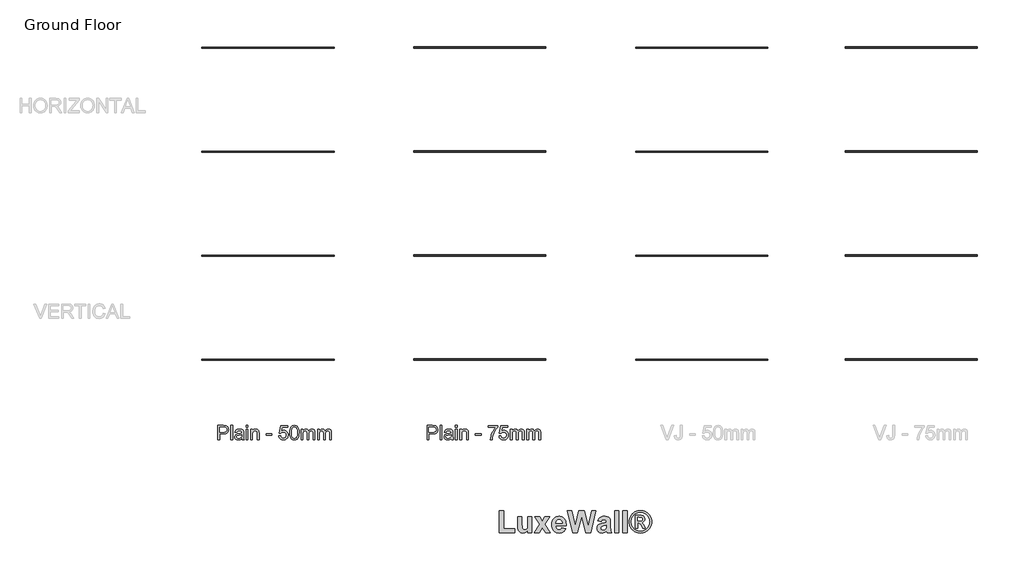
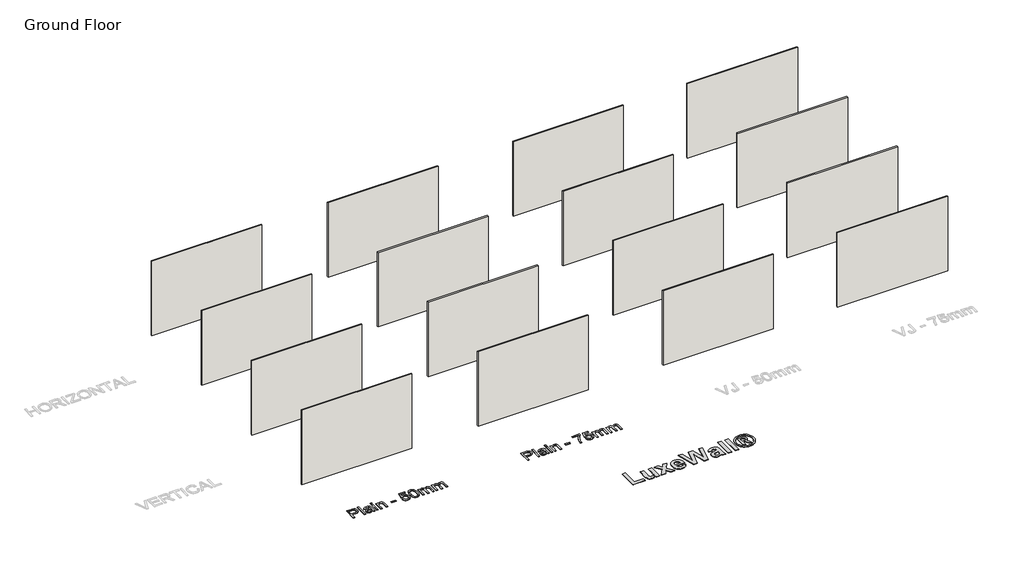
# One storey, part 1 of 2: 16 walls, 3 proxies.
"""IFC4 building model written with IfcOpenShell, lengths in millimetres."""

from ifc_helpers import new_model, si_unit, origin, origin_with_axes, place, context, project, spatial, polyline, outline, extrude, element, save

model = new_model("IFC4")

# Units and contexts
model_context = context("Model", 3, world=origin())
ifc_project = project(units=[si_unit("LENGTHUNIT", "METRE", prefix="MILLI")], contexts=[model_context])

# Site, building, storey
site = spatial("IfcSite", under=ifc_project)
building = spatial("IfcBuilding", under=site)
storey = spatial("IfcBuildingStorey", under=building, Name="Ground Floor", Elevation=0.0)

# Proxies
placement = place(None, origin())
element("IfcBuildingElementProxy", 1, Name="600mm Arial", ObjectType="600mm Arial", at=placement, inside=storey, context=model_context, shape_type="SweptSolid", body=[
    extrude(outline(polyline([(-8281.0770687, -2485.58737), (-8281.0770687, -1882.8495091), (-8057.6991212, -1882.8495091), (-8005.6806071, -1884.2842489), (-7967.6416088, -1888.5884682), (-7927.487289, -1899.3122284), (-7894.4330918, -1916.7682291), (-7867.8168294, -1941.7474165), (-7846.9763144, -1975.0407371), (-7833.5118334, -2014.3121401), (-7829.023673, -2057.2255748), (-7832.054101, -2094.2253065), (-7841.1453848, -2128.2635881), (-7856.2975244, -2159.3404196), (-7877.51052, -2187.4558011), (-7906.6329784, -2210.7611255), (-7945.5135068, -2227.4077858), (-7994.1521051, -2237.395782), (-8052.5487733, -2240.725114), (-8205.7348361, -2240.725114), (-8205.7348361, -2485.58737), (-8281.0770687, -2485.58737)]), holes=[polyline([(-8205.7348361, -2165.3828814), (-8048.1341894, -2165.3828814), (-8011.8978128, -2163.653836), (-7981.326819, -2158.4666999), (-7956.421208, -2149.821473), (-7937.1809796, -2137.7181554), (-7922.8243847, -2122.4786437), (-7912.5696741, -2104.4248348), (-7906.4168478, -2083.5567286), (-7904.3659056, -2059.8743252), (-7909.2035539, -2026.0291816), (-7923.7164986, -1997.4815388), (-7946.102118, -1975.9972303), (-7974.5577903, -1963.3420897), (-8003.6204679, -1959.4793287), (-8049.9000229, -1958.1917417), (-8205.7348361, -1958.1917417), (-8205.7348361, -2165.3828814)])]), origin_with_axes(), (0.0, 0.0, 1.0), 20.0),
    extrude(outline(polyline([(-7734.8458823, -2485.58737), (-7734.8458823, -1882.8495091), (-7659.5036496, -1882.8495091), (-7659.5036496, -2485.58737), (-7734.8458823, -2485.58737)])), origin_with_axes(), (0.0, 0.0, 1.0), 20.0),
    extrude(outline(polyline([(-7263.9569284, -2429.0806956), (-7299.9541817, -2459.9459949), (-7337.0182927, -2480.1427165), (-7375.9953901, -2491.2895409), (-7417.7316024, -2495.0051491), (-7451.2778419, -2492.770266), (-7480.6946059, -2486.0656166), (-7505.9818945, -2474.891201), (-7527.1397078, -2459.2470192), (-7543.8461489, -2440.1263525), (-7555.7793211, -2418.5224823), (-7562.9392244, -2394.4354087), (-7565.3258589, -2367.8651316), (-7561.7206153, -2336.6319502), (-7550.9048847, -2308.2682483), (-7534.2214362, -2283.9880367), (-7513.0130392, -2265.0053257), (-7488.089034, -2250.6579279), (-7460.2587611, -2240.2836556), (-7395.0700715, -2228.9528902), (-7318.0355817, -2217.0335135), (-7264.3983868, -2203.0539977), (-7263.9569284, -2186.2785787), (-7269.1440646, -2152.6541644), (-7275.6279847, -2140.2013588), (-7284.705473, -2130.6548211), (-7300.3956401, -2121.1266774), (-7319.5071097, -2114.3208605), (-7367.9939567, -2108.8762069), (-7412.8755601, -2112.4998446), (-7444.2191061, -2123.3707576), (-7465.59305, -2143.4755086), (-7480.5658472, -2174.8006605), (-7555.9080798, -2165.3828814), (-7542.8298749, -2124.1800979), (-7523.313735, -2091.8064824), (-7495.5386444, -2067.0480241), (-7457.6835871, -2048.6907125), (-7411.385638, -2037.3231589), (-7358.281872, -2033.5339743), (-7307.3486098, -2036.8817005), (-7266.9735608, -2046.924879), (-7236.5313257, -2062.0264349), (-7215.3965051, -2080.5492933), (-7201.3802011, -2103.4499475), (-7192.2935158, -2131.6848907), (-7188.6146958, -2197.6093442), (-7188.6146958, -2291.3456766), (-7184.7887231, -2422.2380904), (-7179.1233403, -2454.5933119), (-7169.7791377, -2485.58737), (-7245.1213703, -2485.58737), (-7257.1878997, -2459.394172), (-7263.9569284, -2429.0806956)]), holes=[polyline([(-7263.9569284, -2278.3962303), (-7314.577491, -2290.9410064), (-7385.5051396, -2301.4992196), (-7450.3259472, -2313.7129019), (-7467.1933367, -2322.0638232), (-7479.6829304, -2333.5785296), (-7487.4084523, -2347.3741044), (-7489.9836263, -2362.5676308), (-7484.3734258, -2384.9716443), (-7467.5428246, -2403.3289559), (-7439.8597044, -2415.5794263), (-7401.6919474, -2419.6629165), (-7361.224928, -2415.156362), (-7325.466798, -2401.6366987), (-7296.4776968, -2381.7158887), (-7276.3177635, -2358.0058941), (-7267.378231, -2333.5785296), (-7264.3983868, -2299.733386), (-7263.9569284, -2278.3962303)])]), origin_with_axes(), (0.0, 0.0, 1.0), 20.0),
    extrude(outline(polyline([(-7085.019126, -2485.58737), (-7085.019126, -2042.9517534), (-7009.6768934, -2042.9517534), (-7009.6768934, -2485.58737), (-7085.019126, -2485.58737)])), origin_with_axes(), (0.0, 0.0, 1.0), 20.0),
    extrude(outline(polyline([(-7085.019126, -1958.1917417), (-7085.019126, -1882.8495091), (-7009.6768934, -1882.8495091), (-7009.6768934, -1958.1917417), (-7085.019126, -1958.1917417)])), origin_with_axes(), (0.0, 0.0, 1.0), 20.0),
    extrude(outline(polyline([(-6896.6635444, -2485.58737), (-6896.6635444, -2042.9517534), (-6821.3213118, -2042.9517534), (-6821.3213118, -2104.7559286), (-6795.1465079, -2073.5963236), (-6763.7109914, -2051.3394629), (-6727.0147624, -2037.9853465), (-6685.0578208, -2033.5339743), (-6647.9201334, -2037.1208238), (-6613.909443, -2047.8813721), (-6585.5457411, -2064.4728501), (-6565.3490196, -2085.5524885), (-6551.6454153, -2111.0651048), (-6542.7610651, -2140.9555169), (-6538.7879395, -2213.796152), (-6538.7879395, -2485.58737), (-6614.1301722, -2485.58737), (-6614.1301722, -2223.949695), (-6616.3006759, -2184.9909918), (-6622.8121872, -2157.2894775), (-6634.8235344, -2137.4422439), (-6653.4935456, -2122.0463824), (-6677.4242694, -2112.1687508), (-6705.2177542, -2108.8762069), (-6728.0954157, -2110.724814), (-6749.3451995, -2116.2706351), (-6768.9671054, -2125.5136702), (-6786.9611335, -2138.4539194), (-6801.9937115, -2156.5629106), (-6812.7312672, -2181.3121718), (-6819.1738007, -2212.701703), (-6821.3213118, -2250.7315043), (-6821.3213118, -2485.58737), (-6896.6635444, -2485.58737)])), origin_with_axes(), (0.0, 0.0, 1.0), 20.0),
    extrude(outline(polyline([(-6237.4190091, -2306.6495676), (-6237.4190091, -2231.3073349), (-6001.9745322, -2231.3073349), (-6001.9745322, -2306.6495676), (-6237.4190091, -2306.6495676)])), origin_with_axes(), (0.0, 0.0, 1.0), 20.0),
    extrude(outline(polyline([(-5700.6056017, -2325.4851257), (-5625.2633691, -2316.0673466), (-5619.6347746, -2340.2877775), (-5611.4310061, -2361.2984379), (-5600.6520636, -2379.099328), (-5587.2979472, -2393.6904476), (-5571.396248, -2405.0534027), (-5552.9745571, -2413.1697993), (-5532.0328745, -2418.0396372), (-5508.5712002, -2419.6629165), (-5479.8764046, -2417.4050407), (-5454.5661234, -2410.6314135), (-5432.6403564, -2399.3420348), (-5414.0991039, -2383.5369045), (-5399.3562329, -2363.9977721), (-5388.8256108, -2341.5063866), (-5382.5072375, -2316.0627481), (-5380.4011131, -2287.6668566), (-5382.3738803, -2260.8298651), (-5388.2921819, -2236.9727177), (-5398.1560179, -2216.0954144), (-5411.9653883, -2198.1979554), (-5429.7662784, -2183.8413605), (-5451.6046733, -2173.5866499), (-5477.4805731, -2167.4338235), (-5507.3939779, -2165.3828814), (-5543.9430541, -2168.6570312), (-5573.5391606, -2178.4794804), (-5597.1755788, -2193.525854), (-5615.84559, -2212.4717768), (-5691.1878227, -2203.0539977), (-5625.2633691, -1892.2672882), (-5333.3122177, -1892.2672882), (-5333.3122177, -1967.6095208), (-5564.3421107, -1967.6095208), (-5596.5685735, -2133.597877), (-5569.9799023, -2114.5415897), (-5542.7474376, -2100.9299559), (-5514.8711794, -2092.7629756), (-5486.3511277, -2090.0406488), (-5449.6594972, -2093.4159661), (-5415.956908, -2103.541918), (-5385.2433599, -2120.4185045), (-5357.518853, -2144.0457257), (-5334.5676151, -2172.9796446), (-5318.1738736, -2205.7763245), (-5308.3376288, -2242.4357653), (-5305.0588805, -2282.9579671), (-5308.0111335, -2321.9902468), (-5316.8678926, -2358.3001997), (-5331.6291576, -2391.8878258), (-5352.2949287, -2422.7531252), (-5383.6016865, -2454.3633857), (-5420.1323686, -2476.9421431), (-5461.8869751, -2490.4893976), (-5508.8655058, -2495.0051491), (-5547.7460342, -2492.1034798), (-5582.8649692, -2483.3984721), (-5614.2223107, -2468.890126), (-5641.8180589, -2448.5784413), (-5664.7784939, -2423.4750936), (-5682.2298961, -2394.5917585), (-5694.1722653, -2361.9284359), (-5700.6056017, -2325.4851257)])), origin_with_axes(), (0.0, 0.0, 1.0), 20.0),
    extrude(outline(polyline([(-5239.134427, -2189.0744819), (-5233.597803, -2092.5974287), (-5226.6770229, -2051.6843523), (-5216.9879309, -2015.6549094), (-5204.5719135, -1984.2147944), (-5189.4703576, -1957.0697016), (-5171.6832632, -1934.2196312), (-5151.2106301, -1915.6645831), (-5127.9834807, -1901.3079882), (-5101.9328369, -1891.0532776), (-5073.0586988, -1884.9004512), (-5041.3610664, -1882.8495091), (-4994.9343586, -1887.7055514), (-4953.3636931, -1902.2736785), (-4918.5988446, -1925.983673), (-4892.5895875, -1958.2653181), (-4872.944689, -1998.8427022), (-4857.272916, -2047.4399138), (-4847.0090083, -2109.1521184), (-4843.5877058, -2189.0744819), (-4849.0691475, -2284.9997121), (-4855.9209497, -2325.7748328), (-4865.5134727, -2361.7582904), (-4877.832921, -2393.212201), (-4892.865499, -2420.3986805), (-4910.6112068, -2443.3177288), (-4931.0700442, -2461.9693459), (-4954.3247848, -2476.4225098), (-4980.4582021, -2486.7461983), (-5009.4702959, -2492.9404114), (-5041.3610664, -2495.0051491), (-5082.8581554, -2491.4182996), (-5119.6463549, -2480.6577513), (-5151.7256649, -2462.723504), (-5179.0960854, -2437.6155578), (-5205.3628598, -2392.2281167), (-5224.1248416, -2335.675457), (-5235.3820306, -2267.9575787), (-5239.134427, -2189.0744819)]), holes=[polyline([(-5163.7921944, -2188.9273291), (-5161.5849024, -2254.4241198), (-5154.9630265, -2307.4405138), (-5143.9265666, -2347.9765112), (-5128.4755228, -2376.0321118), (-5109.7871175, -2395.1205889), (-5089.0385729, -2408.7552153), (-5066.2298892, -2416.9359912), (-5041.3610664, -2419.6629165), (-5016.4922435, -2416.9267941), (-4993.6835598, -2408.7184271), (-4972.9350153, -2395.0378154), (-4954.2466099, -2375.884959), (-4938.7955661, -2347.7833731), (-4927.7591063, -2307.2565728), (-4921.1372303, -2254.3045582), (-4918.9299384, -2188.9273291), (-4921.0636539, -2125.1641823), (-4927.4648007, -2073.0812888), (-4938.1333785, -2032.6786487), (-4953.0693875, -2003.9562619), (-4971.4450932, -1983.9342843), (-4992.432761, -1969.6328718), (-5016.032391, -1961.0520242), (-5042.2439832, -1958.1917417), (-5066.9840473, -1960.7117334), (-5089.4064549, -1968.2717084), (-5109.511206, -1980.8716667), (-5127.2983004, -1998.5116084), (-5143.264379, -2029.781578), (-5154.6687209, -2071.9408546), (-5161.511326, -2124.9894383), (-5163.7921944, -2188.9273291)])]), origin_with_axes(), (0.0, 0.0, 1.0), 20.0),
    extrude(outline(polyline([(-4758.8276941, -2485.58737), (-4758.8276941, -2042.9517534), (-4683.4854615, -2042.9517534), (-4683.4854615, -2115.7923885), (-4660.8239306, -2082.333521), (-4631.6876765, -2056.1219288), (-4597.0699808, -2039.180963), (-4557.9641247, -2033.5339743), (-4516.0623655, -2039.2913276), (-4498.2292857, -2046.4880191), (-4482.4747393, -2056.5633872), (-4457.3851872, -2084.2097192), (-4440.9776502, -2121.0898892), (-4413.5152593, -2082.7841764), (-4382.1901074, -2055.422953), (-4347.0021946, -2039.006219), (-4307.9515208, -2033.5339743), (-4277.7897957, -2035.8102442), (-4251.3160876, -2042.6390537), (-4228.5303966, -2054.0204029), (-4209.4327225, -2069.9542919), (-4194.3357651, -2090.6246615), (-4183.5522241, -2116.2154528), (-4177.0820995, -2146.7266657), (-4174.9253913, -2182.1583004), (-4174.9253913, -2485.58737), (-4250.2676239, -2485.58737), (-4250.2676239, -2214.531916), (-4252.0150634, -2176.9527702), (-4257.2573819, -2151.6240948), (-4267.0798311, -2134.2784587), (-4282.5676631, -2120.6484308), (-4302.4884732, -2111.8192629), (-4325.6098566, -2108.8762069), (-4346.9608079, -2110.7616022), (-4366.4263639, -2116.4177879), (-4384.0065248, -2125.844764), (-4399.7012904, -2139.0425306), (-4412.6093499, -2156.3973637), (-4421.8293924, -2178.2955394), (-4427.3614179, -2204.7370578), (-4429.2054264, -2235.7219189), (-4429.2054264, -2485.58737), (-4504.547659, -2485.58737), (-4504.547659, -2206.1442065), (-4508.9070607, -2163.5434714), (-4514.3563127, -2146.8232348), (-4521.9852656, -2133.1564186), (-4532.0974219, -2122.533826), (-4544.9962844, -2114.9462599), (-4560.6818529, -2110.3937202), (-4579.1541276, -2108.8762069), (-4608.1800171, -2112.9229089), (-4634.9250381, -2125.0630147), (-4656.9979578, -2145.0022189), (-4672.0075432, -2172.4462157), (-4680.6159819, -2210.5220022), (-4683.4854615, -2262.3565753), (-4683.4854615, -2485.58737), (-4758.8276941, -2485.58737)])), origin_with_axes(), (0.0, 0.0, 1.0), 20.0),
    extrude(outline(polyline([(-4061.9120424, -2485.58737), (-4061.9120424, -2042.9517534), (-3986.5698098, -2042.9517534), (-3986.5698098, -2115.7923885), (-3963.9082789, -2082.333521), (-3934.7720249, -2056.1219288), (-3900.1543291, -2039.180963), (-3861.048473, -2033.5339743), (-3819.1467138, -2039.2913276), (-3801.3136341, -2046.4880191), (-3785.5590876, -2056.5633872), (-3760.4695356, -2084.2097192), (-3744.0619986, -2121.0898892), (-3716.5996076, -2082.7841764), (-3685.2744558, -2055.422953), (-3650.0865429, -2039.006219), (-3611.0358691, -2033.5339743), (-3580.874144, -2035.8102442), (-3554.400436, -2042.6390537), (-3531.6147449, -2054.0204029), (-3512.5170708, -2069.9542919), (-3497.4201134, -2090.6246615), (-3486.6365725, -2116.2154528), (-3480.1664479, -2146.7266657), (-3478.0097397, -2182.1583004), (-3478.0097397, -2485.58737), (-3553.3519723, -2485.58737), (-3553.3519723, -2214.531916), (-3555.0994118, -2176.9527702), (-3560.3417302, -2151.6240948), (-3570.1641795, -2134.2784587), (-3585.6520115, -2120.6484308), (-3605.5728215, -2111.8192629), (-3628.6942049, -2108.8762069), (-3650.0451562, -2110.7616022), (-3669.5107123, -2116.4177879), (-3687.0908731, -2125.844764), (-3702.7856387, -2139.0425306), (-3715.6936982, -2156.3973637), (-3724.9137407, -2178.2955394), (-3730.4457662, -2204.7370578), (-3732.2897747, -2235.7219189), (-3732.2897747, -2485.58737), (-3807.6320073, -2485.58737), (-3807.6320073, -2206.1442065), (-3811.991409, -2163.5434714), (-3817.440661, -2146.8232348), (-3825.0696139, -2133.1564186), (-3835.1817703, -2122.533826), (-3848.0806327, -2114.9462599), (-3863.7662013, -2110.3937202), (-3882.238476, -2108.8762069), (-3911.2643654, -2112.9229089), (-3938.0093864, -2125.0630147), (-3960.0823061, -2145.0022189), (-3975.0918916, -2172.4462157), (-3983.7003302, -2210.5220022), (-3986.5698098, -2262.3565753), (-3986.5698098, -2485.58737), (-4061.9120424, -2485.58737)])), origin_with_axes(), (0.0, 0.0, 1.0), 20.0),
])
element("IfcBuildingElementProxy", 2, Name="600mm Arial", ObjectType="600mm Arial", at=placement, inside=storey, context=model_context, shape_type="SweptSolid", body=[
    extrude(outline(polyline([(578.21479, -2485.58737), (578.21479, -1882.8495091), (801.5927374, -1882.8495091), (853.6112516, -1884.2842489), (891.6502499, -1888.5884682), (931.8045696, -1899.3122284), (964.8587669, -1916.7682291), (991.4750292, -1941.7474165), (1012.3155443, -1975.0407371), (1025.7800253, -2014.3121401), (1030.2681856, -2057.2255748), (1027.2377577, -2094.2253065), (1018.1464739, -2128.2635881), (1002.9943342, -2159.3404196), (981.7813387, -2187.4558011), (952.6588802, -2210.7611255), (913.7783519, -2227.4077858), (865.1397536, -2237.395782), (806.7430854, -2240.725114), (653.5570226, -2240.725114), (653.5570226, -2485.58737), (578.21479, -2485.58737)]), holes=[polyline([(653.5570226, -2165.3828814), (811.1576693, -2165.3828814), (847.3940458, -2163.653836), (877.9650396, -2158.4666999), (902.8706507, -2149.821473), (922.1108791, -2137.7181554), (936.4674739, -2122.4786437), (946.7221845, -2104.4248348), (952.8750109, -2083.5567286), (954.925953, -2059.8743252), (950.0883048, -2026.0291816), (935.5753601, -1997.4815388), (913.1897407, -1975.9972303), (884.7340683, -1963.3420897), (855.6713907, -1959.4793287), (809.3918357, -1958.1917417), (653.5570226, -1958.1917417), (653.5570226, -2165.3828814)])]), origin_with_axes(), (0.0, 0.0, 1.0), 20.0),
    extrude(outline(polyline([(1124.4459764, -2485.58737), (1124.4459764, -1882.8495091), (1199.788209, -1882.8495091), (1199.788209, -2485.58737), (1124.4459764, -2485.58737)])), origin_with_axes(), (0.0, 0.0, 1.0), 20.0),
    extrude(outline(polyline([(1595.3349302, -2429.0806956), (1559.337677, -2459.9459949), (1522.273566, -2480.1427165), (1483.2964686, -2491.2895409), (1441.5602562, -2495.0051491), (1408.0140168, -2492.770266), (1378.5972528, -2486.0656166), (1353.3099641, -2474.891201), (1332.1521509, -2459.2470192), (1315.4457098, -2440.1263525), (1303.5125376, -2418.5224823), (1296.3526342, -2394.4354087), (1293.9659998, -2367.8651316), (1297.5712433, -2336.6319502), (1308.386974, -2308.2682483), (1325.0704225, -2283.9880367), (1346.2788195, -2265.0053257), (1371.2028247, -2250.6579279), (1399.0330976, -2240.2836556), (1464.2217871, -2228.9528902), (1541.2562769, -2217.0335135), (1594.8934718, -2203.0539977), (1595.3349302, -2186.2785787), (1590.1477941, -2152.6541644), (1583.6638739, -2140.2013588), (1574.5863857, -2130.6548211), (1558.8962186, -2121.1266774), (1539.784749, -2114.3208605), (1491.297902, -2108.8762069), (1446.4162986, -2112.4998446), (1415.0727526, -2123.3707576), (1393.6988087, -2143.4755086), (1378.7260115, -2174.8006605), (1303.3837789, -2165.3828814), (1316.4619838, -2124.1800979), (1335.9781236, -2091.8064824), (1363.7532143, -2067.0480241), (1401.6082716, -2048.6907125), (1447.9062207, -2037.3231589), (1501.0099867, -2033.5339743), (1551.9432489, -2036.8817005), (1592.3182979, -2046.924879), (1622.760533, -2062.0264349), (1643.8953536, -2080.5492933), (1657.9116576, -2103.4499475), (1666.9983429, -2131.6848907), (1670.6771628, -2197.6093442), (1670.6771628, -2291.3456766), (1674.5031356, -2422.2380904), (1680.1685183, -2454.5933119), (1689.512721, -2485.58737), (1614.1704884, -2485.58737), (1602.1039589, -2459.394172), (1595.3349302, -2429.0806956)]), holes=[polyline([(1595.3349302, -2278.3962303), (1544.7143677, -2290.9410064), (1473.786719, -2301.4992196), (1408.9659115, -2313.7129019), (1392.098522, -2322.0638232), (1379.6089283, -2333.5785296), (1371.8834064, -2347.3741044), (1369.3082324, -2362.5676308), (1374.9184328, -2384.9716443), (1391.7490341, -2403.3289559), (1419.4321542, -2415.5794263), (1457.5999112, -2419.6629165), (1498.0669307, -2415.156362), (1533.8250606, -2401.6366987), (1562.8141619, -2381.7158887), (1582.9740952, -2358.0058941), (1591.9136277, -2333.5785296), (1594.8934718, -2299.733386), (1595.3349302, -2278.3962303)])]), origin_with_axes(), (0.0, 0.0, 1.0), 20.0),
    extrude(outline(polyline([(1774.2727327, -2485.58737), (1774.2727327, -2042.9517534), (1849.6149653, -2042.9517534), (1849.6149653, -2485.58737), (1774.2727327, -2485.58737)])), origin_with_axes(), (0.0, 0.0, 1.0), 20.0),
    extrude(outline(polyline([(1774.2727327, -1958.1917417), (1774.2727327, -1882.8495091), (1849.6149653, -1882.8495091), (1849.6149653, -1958.1917417), (1774.2727327, -1958.1917417)])), origin_with_axes(), (0.0, 0.0, 1.0), 20.0),
    extrude(outline(polyline([(1962.6283142, -2485.58737), (1962.6283142, -2042.9517534), (2037.9705468, -2042.9517534), (2037.9705468, -2104.7559286), (2064.1453508, -2073.5963236), (2095.5808673, -2051.3394629), (2132.2770963, -2037.9853465), (2174.2340378, -2033.5339743), (2211.3717253, -2037.1208238), (2245.3824157, -2047.8813721), (2273.7461175, -2064.4728501), (2293.9428391, -2085.5524885), (2307.6464434, -2111.0651048), (2316.5307936, -2140.9555169), (2320.5039191, -2213.796152), (2320.5039191, -2485.58737), (2245.1616865, -2485.58737), (2245.1616865, -2223.949695), (2242.9911827, -2184.9909918), (2236.4796714, -2157.2894775), (2224.4683243, -2137.4422439), (2205.798313, -2122.0463824), (2181.8675892, -2112.1687508), (2154.0741045, -2108.8762069), (2131.1964429, -2110.724814), (2109.9466592, -2116.2706351), (2090.3247533, -2125.5136702), (2072.3307252, -2138.4539194), (2057.2981471, -2156.5629106), (2046.5605914, -2181.3121718), (2040.118058, -2212.701703), (2037.9705468, -2250.7315043), (2037.9705468, -2485.58737), (1962.6283142, -2485.58737)])), origin_with_axes(), (0.0, 0.0, 1.0), 20.0),
    extrude(outline(polyline([(2621.8728496, -2306.6495676), (2621.8728496, -2231.3073349), (2857.3173265, -2231.3073349), (2857.3173265, -2306.6495676), (2621.8728496, -2306.6495676)])), origin_with_axes(), (0.0, 0.0, 1.0), 20.0),
    extrude(outline(polyline([(3158.6862569, -1967.6095208), (3158.6862569, -1892.2672882), (3554.2329781, -1892.2672882), (3554.2329781, -1953.1885466), (3497.8550624, -2024.5392596), (3442.0289696, -2115.2773537), (3392.7879646, -2217.125484), (3372.8993442, -2269.1118085), (3356.1653119, -2321.8063058), (3338.2126706, -2400.1283825), (3328.2062803, -2485.58737), (3252.8640477, -2485.58737), (3261.0126339, -2407.9274808), (3282.8096421, -2315.6258882), (3298.6791517, -2266.260723), (3317.6664611, -2217.7876716), (3339.7715705, -2170.2067341), (3364.9944798, -2123.5179104), (3420.2503555, -2038.2980462), (3478.8907455, -1967.6095208), (3158.6862569, -1967.6095208)])), origin_with_axes(), (0.0, 0.0, 1.0), 20.0),
    extrude(outline(polyline([(3620.1574317, -2325.4851257), (3695.4996643, -2316.0673466), (3701.1282588, -2340.2877775), (3709.3320273, -2361.2984379), (3720.1109698, -2379.099328), (3733.4650862, -2393.6904476), (3749.3667854, -2405.0534027), (3767.7884763, -2413.1697993), (3788.7301589, -2418.0396372), (3812.1918332, -2419.6629165), (3840.8866288, -2417.4050407), (3866.1969101, -2410.6314135), (3888.122677, -2399.3420348), (3906.6639295, -2383.5369045), (3921.4068005, -2363.9977721), (3931.9374226, -2341.5063866), (3938.2557959, -2316.0627481), (3940.3619203, -2287.6668566), (3938.3891531, -2260.8298651), (3932.4708515, -2236.9727177), (3922.6070155, -2216.0954144), (3908.7976451, -2198.1979554), (3890.9967551, -2183.8413605), (3869.1583601, -2173.5866499), (3843.2824603, -2167.4338235), (3813.3690555, -2165.3828814), (3776.8199793, -2168.6570312), (3747.2238728, -2178.4794804), (3723.5874546, -2193.525854), (3704.9174434, -2212.4717768), (3629.5752108, -2203.0539977), (3695.4996643, -1892.2672882), (3987.4508157, -1892.2672882), (3987.4508157, -1967.6095208), (3756.4209227, -1967.6095208), (3724.1944599, -2133.597877), (3750.7831311, -2114.5415897), (3778.0155958, -2100.9299559), (3805.891854, -2092.7629756), (3834.4119057, -2090.0406488), (3871.1035362, -2093.4159661), (3904.8061254, -2103.541918), (3935.5196735, -2120.4185045), (3963.2441804, -2144.0457257), (3986.1954184, -2172.9796446), (4002.5891598, -2205.7763245), (4012.4254046, -2242.4357653), (4015.7041529, -2282.9579671), (4012.7518999, -2321.9902468), (4003.8951408, -2358.3001997), (3989.1338758, -2391.8878258), (3968.4681047, -2422.7531252), (3937.1613469, -2454.3633857), (3900.6306648, -2476.9421431), (3858.8760584, -2490.4893976), (3811.8975276, -2495.0051491), (3773.0169992, -2492.1034798), (3737.8980642, -2483.3984721), (3706.5407227, -2468.890126), (3678.9449745, -2448.5784413), (3655.9845395, -2423.4750936), (3638.5331373, -2394.5917585), (3626.5907681, -2361.9284359), (3620.1574317, -2325.4851257)])), origin_with_axes(), (0.0, 0.0, 1.0), 20.0),
    extrude(outline(polyline([(4100.4641646, -2485.58737), (4100.4641646, -2042.9517534), (4175.8063972, -2042.9517534), (4175.8063972, -2115.7923885), (4198.4679281, -2082.333521), (4227.6041821, -2056.1219288), (4262.2218779, -2039.180963), (4301.3277339, -2033.5339743), (4343.2294932, -2039.2913276), (4361.0625729, -2046.4880191), (4376.8171194, -2056.5633872), (4401.9066714, -2084.2097192), (4418.3142084, -2121.0898892), (4445.7765994, -2082.7841764), (4477.1017512, -2055.422953), (4512.2896641, -2039.006219), (4551.3403379, -2033.5339743), (4581.502063, -2035.8102442), (4607.975771, -2042.6390537), (4630.7614621, -2054.0204029), (4649.8591362, -2069.9542919), (4664.9560936, -2090.6246615), (4675.7396345, -2116.2154528), (4682.2097591, -2146.7266657), (4684.3664673, -2182.1583004), (4684.3664673, -2485.58737), (4609.0242347, -2485.58737), (4609.0242347, -2214.531916), (4607.2767952, -2176.9527702), (4602.0344768, -2151.6240948), (4592.2120275, -2134.2784587), (4576.7241955, -2120.6484308), (4556.8033855, -2111.8192629), (4533.6820021, -2108.8762069), (4512.3310508, -2110.7616022), (4492.8654947, -2116.4177879), (4475.2853339, -2125.844764), (4459.5905683, -2139.0425306), (4446.6825088, -2156.3973637), (4437.4624663, -2178.2955394), (4431.9304408, -2204.7370578), (4430.0864323, -2235.7219189), (4430.0864323, -2485.58737), (4354.7441996, -2485.58737), (4354.7441996, -2206.1442065), (4350.384798, -2163.5434714), (4344.935546, -2146.8232348), (4337.3065931, -2133.1564186), (4327.1944367, -2122.533826), (4314.2955743, -2114.9462599), (4298.6100057, -2110.3937202), (4280.137731, -2108.8762069), (4251.1118416, -2112.9229089), (4224.3668206, -2125.0630147), (4202.2939008, -2145.0022189), (4187.2843154, -2172.4462157), (4178.6758768, -2210.5220022), (4175.8063972, -2262.3565753), (4175.8063972, -2485.58737), (4100.4641646, -2485.58737)])), origin_with_axes(), (0.0, 0.0, 1.0), 20.0),
    extrude(outline(polyline([(4797.3798162, -2485.58737), (4797.3798162, -2042.9517534), (4872.7220489, -2042.9517534), (4872.7220489, -2115.7923885), (4895.3835798, -2082.333521), (4924.5198338, -2056.1219288), (4959.1375295, -2039.180963), (4998.2433856, -2033.5339743), (5040.1451449, -2039.2913276), (5057.9782246, -2046.4880191), (5073.732771, -2056.5633872), (5098.8223231, -2084.2097192), (5115.2298601, -2121.0898892), (5142.692251, -2082.7841764), (5174.0174029, -2055.422953), (5209.2053157, -2039.006219), (5248.2559895, -2033.5339743), (5278.4177146, -2035.8102442), (5304.8914227, -2042.6390537), (5327.6771138, -2054.0204029), (5346.7747878, -2069.9542919), (5361.8717452, -2090.6246615), (5372.6552862, -2116.2154528), (5379.1254108, -2146.7266657), (5381.282119, -2182.1583004), (5381.282119, -2485.58737), (5305.9398864, -2485.58737), (5305.9398864, -2214.531916), (5304.1924469, -2176.9527702), (5298.9501285, -2151.6240948), (5289.1276792, -2134.2784587), (5273.6398472, -2120.6484308), (5253.7190372, -2111.8192629), (5230.5976538, -2108.8762069), (5209.2467025, -2110.7616022), (5189.7811464, -2116.4177879), (5172.2009856, -2125.844764), (5156.5062199, -2139.0425306), (5143.5981604, -2156.3973637), (5134.3781179, -2178.2955394), (5128.8460924, -2204.7370578), (5127.0020839, -2235.7219189), (5127.0020839, -2485.58737), (5051.6598513, -2485.58737), (5051.6598513, -2206.1442065), (5047.3004497, -2163.5434714), (5041.8511976, -2146.8232348), (5034.2222447, -2133.1564186), (5024.1100884, -2122.533826), (5011.2112259, -2114.9462599), (4995.5256574, -2110.3937202), (4977.0533827, -2108.8762069), (4948.0274933, -2112.9229089), (4921.2824722, -2125.0630147), (4899.2095525, -2145.0022189), (4884.1999671, -2172.4462157), (4875.5915284, -2210.5220022), (4872.7220489, -2262.3565753), (4872.7220489, -2485.58737), (4797.3798162, -2485.58737)])), origin_with_axes(), (0.0, 0.0, 1.0), 20.0),
])
element("IfcBuildingElementProxy", 3, Name="900mm Arial", ObjectType="900mm Arial", at=placement, inside=storey, context=model_context, shape_type="SweptSolid", body=[
    extrude(outline(polyline([(3638.3193538, -6419.7488861), (3638.3193538, -5497.7851027), (3813.931503, -5497.7851027), (3813.931503, -6258.7710827), (4282.2305675, -6258.7710827), (4282.2305675, -6419.7488861), (3638.3193538, -6419.7488861)])), origin_with_axes(), (0.0, 0.0, 1.0), 20.0),
    extrude(outline(polyline([(4838.3357067, -6419.7488861), (4838.3357067, -6320.9670522), (4819.4782661, -6345.9697748), (4797.8911769, -6368.1571008), (4773.5744393, -6387.5290301), (4746.5280532, -6404.0855629), (4717.7095393, -6417.3407931), (4688.0764183, -6426.8088147), (4657.6286901, -6432.4896276), (4626.3663548, -6434.3832319), (4595.0539997, -6432.525356), (4565.3708589, -6426.9517282), (4537.3169324, -6417.6623486), (4510.8922202, -6404.6572171), (4487.0542429, -6388.2864719), (4466.7605212, -6368.9002511), (4450.0110552, -6346.4985548), (4436.8058447, -6321.081383), (4426.8018974, -6291.5768842), (4419.6562208, -6256.9132068), (4415.3688148, -6217.0903508), (4413.9396795, -6172.1083163), (4413.9396795, -5746.5689808), (4589.5518287, -5746.5689808), (4589.5518287, -6057.77749), (4591.9241933, -6172.9943802), (4599.0412873, -6232.8179851), (4612.4751594, -6261.6293533), (4633.7978585, -6283.8095336), (4662.4663132, -6297.9579734), (4697.937452, -6302.67412), (4719.5388325, -6301.1020711), (4739.9826134, -6296.3859245), (4759.2687947, -6288.5256802), (4777.3973763, -6277.5213382), (4806.9518949, -6249.3102068), (4825.4163234, -6214.9823762), (4831.0685536, -6189.5366217), (4835.1058609, -6150.5855383), (4838.3357067, -6032.1673849), (4838.3357067, -5746.5689808), (5013.947856, -5746.5689808), (5013.947856, -6419.7488861), (4838.3357067, -6419.7488861)])), origin_with_axes(), (0.0, 0.0, 1.0), 20.0),
    extrude(outline(polyline([(5109.0711034, -6419.7488861), (5346.8792222, -6073.0978208), (5138.339795, -5746.5689808), (5347.1078838, -5746.5689808), (5448.6336576, -5931.5562578), (5558.8485742, -5746.5689808), (5767.616663, -5746.5689808), (5552.9033712, -6065.3233246), (5796.8853546, -6419.7488861), (5588.1172657, -6419.7488861), (5448.6336576, -6211.2094589), (5317.8391923, -6419.7488861), (5109.0711034, -6419.7488861)])), origin_with_axes(), (0.0, 0.0, 1.0), 20.0),
    extrude(outline(polyline([(6272.501592, -6214.8680454), (6448.1137412, -6244.1367369), (6429.1348241, -6287.889715), (6405.3540122, -6326.0833567), (6376.7713056, -6358.7176619), (6343.3867043, -6385.7926307), (6305.3574132, -6407.0510187), (6262.8406372, -6422.2355816), (6215.8363762, -6431.3463193), (6164.3446303, -6434.3832319), (6123.1962514, -6432.5932399), (6084.8132493, -6427.2232639), (6049.195624, -6418.2733039), (6016.3433757, -6405.7433599), (5986.2565041, -6389.6334319), (5958.9350095, -6369.9435199), (5934.3788917, -6346.6736239), (5912.5881508, -6319.8237439), (5884.3770194, -6270.961607), (5864.2262112, -6216.0685191), (5852.1357264, -6155.14448), (5848.1055647, -6088.1894898), (5853.4505309, -6009.2440543), (5869.4854293, -5939.330754), (5881.5116031, -5907.7611545), (5896.2102599, -5878.449589), (5913.5813998, -5851.3960572), (5933.6250228, -5826.6005592), (5979.2144398, -5785.1842174), (6004.1314143, -5768.9135117), (6030.4632327, -5755.6011161), (6058.2098951, -5745.2470306), (6087.3714015, -5737.8512553), (6149.9389462, -5731.934635), (6185.6709023, -5733.4530913), (6219.46638, -5738.0084602), (6251.3253793, -5745.6007416), (6281.2479002, -5756.2299356), (6309.2339428, -5769.8960422), (6335.283507, -5786.5990614), (6359.3965929, -5806.3389931), (6381.5732003, -5829.1158374), (6401.3988802, -5855.0296337), (6418.4591832, -5884.1804216), (6432.7541093, -5916.568201), (6444.2836586, -5952.1929719), (6453.047831, -5991.0547344), (6459.0466265, -6033.1534883), (6462.748087, -6127.0619708), (6023.717714, -6127.0619708), (6026.9904339, -6166.3631923), (6034.9793003, -6201.0340154), (6047.6843134, -6231.07444), (6065.1054731, -6256.4844662), (6086.0994711, -6276.6924397), (6109.5229991, -6291.1267065), (6135.3760572, -6299.7872666), (6163.6586454, -6302.67412), (6200.5303369, -6297.4720674), (6231.1138329, -6281.8659096), (6243.9903422, -6269.8754642), (6255.1804718, -6254.7123383), (6272.501592, -6214.8680454)]), holes=[polyline([(6287.1359378, -6024.6215504), (6284.0061314, -5987.5426343), (6276.4460055, -5955.1941561), (6264.4555601, -5927.5761159), (6248.0347952, -5904.6885136), (6228.3984758, -5886.7314282), (6206.7613669, -5873.9049386), (6183.1234685, -5866.2090449), (6157.4847807, -5863.6437469), (6130.2454614, -5866.3448127), (6105.4642548, -5874.44801), (6083.1411609, -5887.9533389), (6063.2761799, -5906.8607993), (6047.0983679, -5930.512989), (6035.6081199, -5958.0238441), (6028.8054357, -5989.3933645), (6026.6903154, -6024.6215504), (6287.1359378, -6024.6215504)])]), origin_with_axes(), (0.0, 0.0, 1.0), 20.0),
    extrude(outline(polyline([(6738.7427017, -6419.7488861), (6506.6511243, -5497.7851027), (6686.8365066, -5497.7851027), (6835.9239041, -6131.1778805), (6996.2157226, -5497.7851027), (7232.4232097, -5497.7851027), (7392.0290433, -6141.6963165), (7541.1164408, -5497.7851027), (7721.3018231, -5497.7851027), (7492.6401704, -6419.7488861), (7284.7867282, -6419.7488861), (7113.9764737, -5730.5626651), (6939.7362944, -6419.7488861), (6738.7427017, -6419.7488861)])), origin_with_axes(), (0.0, 0.0, 1.0), 20.0),
    extrude(outline(polyline([(7955.4513554, -5951.4498216), (7794.4735519, -5922.18113), (7809.6009494, -5876.8489574), (7829.3730366, -5837.8049802), (7853.7898137, -5805.0491985), (7882.8512806, -5778.5816122), (7918.0294468, -5758.1735597), (7960.7963215, -5743.5963793), (8011.1519048, -5734.8500711), (8069.0961967, -5731.934635), (8121.6455028, -5733.6996172), (8167.0205494, -5738.9945636), (8205.2213368, -5747.8194742), (8236.2478648, -5760.1743491), (8261.6578909, -5775.2374355), (8283.0091727, -5792.1869805), (8300.3017102, -5811.0229841), (8313.5355034, -5831.7454464), (8323.3393717, -5857.9486427), (8330.3421348, -5893.2268483), (8334.5437927, -5937.5800632), (8335.9443453, -5991.0082875), (8335.9443453, -6198.633068), (8338.2595446, -6275.692045), (8345.2051423, -6329.4275333), (8358.4961008, -6373.0447436), (8379.8473826, -6419.7488861), (8204.2352334, -6419.7488861), (8187.7715944, -6363.9554429), (8181.5977298, -6341.7752626), (8136.1512263, -6382.2197924), (8087.6177906, -6411.1740742), (8035.8830917, -6428.5809425), (7980.8327988, -6434.3832319), (7933.4069429, -6430.8604133), (7891.2831791, -6420.2919576), (7854.4615073, -6402.6778646), (7822.9419277, -6378.0181345), (7797.6819607, -6347.9848556), (7779.6391272, -6314.2501162), (7768.8134271, -6276.8139162), (7765.2048604, -6235.6762558), (7766.8126376, -6207.9796131), (7771.6359693, -6181.8264366), (7779.6748556, -6157.2167262), (7790.9292963, -6134.150482), (7805.0848817, -6113.156484), (7821.8272021, -6094.7635123), (7841.1562574, -6078.971567), (7863.0720477, -6065.7806479), (7919.7229721, -6043.5433021), (7996.8391145, -6024.3928887), (8096.7070913, -6001.8125505), (8160.3321961, -5980.7185131), (8160.3321961, -5962.1969192), (8154.8728991, -5916.5789195), (8148.048778, -5899.5150437), (8138.4950083, -5886.2812506), (8125.1683213, -5876.3773427), (8107.0254483, -5869.3031228), (8084.0663893, -5865.0585909), (8056.2911442, -5863.6437469), (8019.876776, -5868.5028071), (8005.0566426, -5874.5766322), (7992.4945431, -5883.0799874), (7971.8006635, -5909.8905662), (7955.4513554, -5951.4498216)]), holes=[polyline([(8160.3321961, -6112.427625), (8061.3217005, -6136.780091), (8005.2995956, -6150.7570345), (7972.6009793, -6164.5624818), (7958.6954925, -6176.2956829), (7948.763002, -6189.5437674), (7942.8035077, -6204.3067353), (7940.8170096, -6220.5845867), (7942.4104955, -6236.7123789), (7947.1909531, -6251.7111542), (7955.1583826, -6265.5809125), (7966.3127838, -6278.321654), (7979.9252979, -6288.9758579), (7995.2670656, -6296.5860035), (8012.3380871, -6301.1520909), (8031.1383624, -6302.67412), (8052.9326761, -6300.9019922), (8074.1839185, -6295.5856088), (8094.8920894, -6286.7249697), (8115.0571889, -6274.3200751), (8139.6383165, -6250.4249324), (8153.9296698, -6221.727895), (8158.7315645, -6192.1733764), (8160.3321961, -6144.2115947), (8160.3321961, -6112.427625)])]), origin_with_axes(), (0.0, 0.0, 1.0), 20.0),
    extrude(outline(polyline([(8511.5564945, -6419.7488861), (8511.5564945, -5497.7851027), (8687.1686438, -5497.7851027), (8687.1686438, -6419.7488861), (8511.5564945, -6419.7488861)])), origin_with_axes(), (0.0, 0.0, 1.0), 20.0),
    extrude(outline(polyline([(8862.780793, -6419.7488861), (8862.780793, -5497.7851027), (9038.3929422, -5497.7851027), (9038.3929422, -6419.7488861), (8862.780793, -6419.7488861)])), origin_with_axes(), (0.0, 0.0, 1.0), 20.0),
    extrude(outline(polyline([(9601.8152543, -5483.150757), (9662.3605725, -5486.973694), (9721.6625429, -5498.442505), (9779.7211657, -5517.55719), (9836.5364407, -5544.3177491), (9889.721712, -5578.2168391), (9936.8903235, -5618.747117), (9978.0422753, -5665.9085828), (10013.1775673, -5719.7012366), (10041.2886593, -5777.4740323), (10061.3680106, -5836.5759238), (10073.4156215, -5897.0069112), (10077.4314917, -5958.7669944), (10073.4942239, -6020.1340655), (10061.6824204, -6080.0720012), (10041.9960812, -6138.5808015), (10014.4352064, -6195.6604666), (9979.8286944, -6248.9171946), (9939.0054438, -6295.9571839), (9891.9654544, -6336.7804346), (9838.7087264, -6371.3869466), (9781.6290613, -6398.9478214), (9723.120261, -6418.6341606), (9663.1823253, -6430.4459641), (9601.8152543, -6434.3832319), (9540.4481832, -6430.4459641), (9480.5102475, -6418.6341606), (9422.0014472, -6398.9478214), (9364.9217821, -6371.3869466), (9311.6650541, -6336.7804346), (9264.6250648, -6295.9571839), (9223.8018141, -6248.9171946), (9189.1953021, -6195.6604666), (9161.6344273, -6138.5808015), (9141.9480881, -6080.0720012), (9130.1362846, -6020.1340655), (9126.1990168, -5958.7669944), (9130.2148871, -5897.0069112), (9142.2624979, -5836.5759238), (9162.3418493, -5777.4740323), (9190.4529412, -5719.7012366), (9225.5882333, -5665.9085828), (9266.740185, -5618.747117), (9313.9087966, -5578.2168391), (9367.0940678, -5544.3177491), (9423.9093428, -5517.55719), (9481.9679656, -5498.442505), (9541.2699361, -5486.973694), (9601.8152543, -5483.150757)]), holes=[polyline([(9601.5865926, -5570.9568316), (9552.2599867, -5574.0652009), (9503.9766496, -5583.3903089), (9456.7365813, -5598.9321556), (9410.5397818, -5620.690741), (9367.2870011, -5648.2659072), (9328.8789891, -5681.2574963), (9295.3157459, -5719.6655082), (9266.5972715, -5763.4899431), (9243.5881927, -5810.5799522), (9227.1531364, -5858.7846868), (9217.2921027, -5908.104147), (9214.0050914, -5958.5383328), (9217.2135002, -6008.5937977), (9226.8387267, -6057.4630803), (9242.8807707, -6105.1461805), (9265.3396324, -6151.6430984), (9293.5507638, -6195.031647), (9326.849617, -6233.3896392), (9365.2361919, -6266.7170751), (9408.7104886, -6295.0139546), (9455.2788633, -6317.5728558), (9502.9476722, -6333.6863566), (9551.7169153, -6343.3544571), (9601.5865926, -6346.5771573), (9651.6349118, -6343.3544571), (9700.4827574, -6333.6863566), (9748.1301292, -6317.5728558), (9794.5770274, -6295.0139546), (9837.922702, -6266.7170751), (9876.2664028, -6233.3896392), (9909.6081301, -6195.031647), (9937.9478836, -6151.6430984), (9960.5568045, -6105.1461805), (9976.7060337, -6057.4630803), (9986.3955713, -6008.5937977), (9989.6254171, -5958.5383328), (9986.3384059, -5908.104147), (9976.4773721, -5858.7846868), (9960.0423158, -5810.5799522), (9937.033237, -5763.4899431), (9908.2933256, -5719.6655082), (9874.6657713, -5681.2574963), (9836.1505741, -5648.2659072), (9792.7477342, -5620.690741), (9746.4151668, -5598.9321556), (9699.1107875, -5583.3903089), (9650.834596, -5574.0652009), (9601.5865926, -5570.9568316)])]), origin_with_axes(), (0.0, 0.0, 1.0), 20.0),
    extrude(outline(polyline([(9389.6172406, -6229.5023911), (9389.6172406, -5688.0315977), (9488.6277362, -5688.0315977), (9644.3463217, -5689.4035676), (9688.04928, -5697.0923157), (9720.8336445, -5711.0120938), (9745.9006781, -5732.5348719), (9766.4516442, -5763.0326198), (9780.1713433, -5799.9043113), (9784.7445764, -5840.54892), (9782.6223104, -5868.7600514), (9776.2555125, -5894.8560625), (9765.6441827, -5918.8369533), (9750.788321, -5940.7027239), (9732.0880852, -5959.5387275), (9709.9436333, -5974.4303176), (9684.3549652, -5985.3774943), (9655.322081, -5992.3802574), (9675.5872199, -6002.155543), (9690.6503063, -6012.7311445), (9724.8352234, -6054.3475652), (9762.1070728, -6120.2021212), (9814.0132679, -6229.5023911), (9711.5728475, -6229.5023911), (9661.0386223, -6142.8396248), (9616.0780248, -6071.4971892), (9583.6366529, -6032.6247082), (9569.666855, -6022.7208004), (9553.9392207, -6015.6465805), (9517.2104428, -6009.9872046), (9492.057661, -6009.9872046), (9492.057661, -6229.5023911), (9389.6172406, -6229.5023911)]), holes=[polyline([(9492.057661, -5922.18113), (9532.0734502, -5922.18113), (9601.1864347, -5920.3804195), (9637.9437954, -5914.978288), (9656.3510584, -5905.0315061), (9670.4137501, -5889.5968445), (9679.3315545, -5870.1891868), (9682.304156, -5848.3234162), (9679.3887199, -5827.1436306), (9670.6424117, -5808.4219578), (9656.5225547, -5793.4160369), (9637.4864721, -5783.3835069), (9600.3861189, -5777.724131), (9532.0734502, -5775.8376723), (9492.057661, -5775.8376723), (9492.057661, -5922.18113)])]), origin_with_axes(), (0.0, 0.0, 1.0), 20.0),
])

# Walls
element("IfcWall", 4, ObjectType="Cladding_Bondor_LuxeWall_Vertical_Plain_50x900mm_Surfmist", at=placement, inside=storey, context=model_context, shape_type="SweptSolid", body=[
    extrude(outline(polyline([(-3365.214984, 874.5608175), (-8965.214984, 874.5608175), (-8965.214984, 924.5608175), (-3365.214984, 924.5608175), (-3365.214984, 874.5608175)])), origin_with_axes(), (0.0, 0.0, 1.0), 4000.0),
])
element("IfcWall", 5, ObjectType="Cladding_Bondor_LuxeWall_Vertical_Plain_75x900mm_Surfmist", at=placement, inside=storey, context=model_context, shape_type="SweptSolid", body=[
    extrude(outline(polyline([(5599.585016, 874.5608175), (-0.414984, 874.5608175), (-0.414984, 949.5608175), (5599.585016, 949.5608175), (5599.585016, 874.5608175)])), origin_with_axes(), (0.0, 0.0, 1.0), 4000.0),
])
element("IfcWall", 6, ObjectType="Cladding_Bondor_LuxeWall_Vertical_Plain_50x1200mm_Surfmist", at=placement, inside=storey, context=model_context, shape_type="SweptSolid", body=[
    extrude(outline(polyline([(-3365.214984, 5274.5608175), (-8965.214984, 5274.5608175), (-8965.214984, 5324.5608175), (-3365.214984, 5324.5608175), (-3365.214984, 5274.5608175)])), origin_with_axes(), (0.0, 0.0, 1.0), 4000.0),
])
element("IfcWall", 7, ObjectType="Cladding_Bondor_LuxeWall_Vertical_Plain_75x1200mm_Surfmist", at=placement, inside=storey, context=model_context, shape_type="SweptSolid", body=[
    extrude(outline(polyline([(5599.585016, 5274.5608175), (-0.414984, 5274.5608175), (-0.414984, 5349.5608175), (5599.585016, 5349.5608175), (5599.585016, 5274.5608175)])), origin_with_axes(), (0.0, 0.0, 1.0), 4000.0),
])
element("IfcWall", 8, ObjectType="Cladding_Bondor_LuxeWall_Vertical_VJ_50x900mm_Surfmist", at=placement, inside=storey, context=model_context, shape_type="SweptSolid", body=[
    extrude(outline(polyline([(15002.4040847, 874.5608175), (9402.4040847, 874.5608175), (9402.4040847, 924.5608175), (15002.4040847, 924.5608175), (15002.4040847, 874.5608175)])), origin_with_axes(), (0.0, 0.0, 1.0), 4000.0),
])
element("IfcWall", 9, ObjectType="Cladding_Bondor_LuxeWall_Vertical_VJ_75x900mm_Surfmist", at=placement, inside=storey, context=model_context, shape_type="SweptSolid", body=[
    extrude(outline(polyline([(23867.2040847, 874.5608175), (18267.2040847, 874.5608175), (18267.2040847, 949.5608175), (23867.2040847, 949.5608175), (23867.2040847, 874.5608175)])), origin_with_axes(), (0.0, 0.0, 1.0), 4000.0),
])
element("IfcWall", 10, ObjectType="Cladding_Bondor_LuxeWall_Vertical_VJ_50x1200mm_Surfmist", at=placement, inside=storey, context=model_context, shape_type="SweptSolid", body=[
    extrude(outline(polyline([(15002.4040847, 5274.5608175), (9402.4040847, 5274.5608175), (9402.4040847, 5324.5608175), (15002.4040847, 5324.5608175), (15002.4040847, 5274.5608175)])), origin_with_axes(), (0.0, 0.0, 1.0), 4000.0),
])
element("IfcWall", 11, ObjectType="Cladding_Bondor_LuxeWall_Vertical_VJ_75x1200mm_Surfmist", at=placement, inside=storey, context=model_context, shape_type="SweptSolid", body=[
    extrude(outline(polyline([(23867.2040847, 5274.5608175), (18267.2040847, 5274.5608175), (18267.2040847, 5349.5608175), (23867.2040847, 5349.5608175), (23867.2040847, 5274.5608175)])), origin_with_axes(), (0.0, 0.0, 1.0), 4000.0),
])
element("IfcWall", 12, ObjectType="Cladding_Bondor_LuxeWall_Horizontal_Plain_50x900mm_Surfmist", at=placement, inside=storey, context=model_context, shape_type="SweptSolid", body=[
    extrude(outline(polyline([(-3365.214984, 9679.3608175), (-8965.214984, 9679.3608175), (-8965.214984, 9729.3608175), (-3365.214984, 9729.3608175), (-3365.214984, 9679.3608175)])), origin_with_axes(), (0.0, 0.0, 1.0), 4000.0),
])
element("IfcWall", 13, ObjectType="Cladding_Bondor_LuxeWall_Horizontal_Plain_75x900mm_Surfmist", at=placement, inside=storey, context=model_context, shape_type="SweptSolid", body=[
    extrude(outline(polyline([(5599.585016, 9679.3608175), (-0.414984, 9679.3608175), (-0.414984, 9754.3608175), (5599.585016, 9754.3608175), (5599.585016, 9679.3608175)])), origin_with_axes(), (0.0, 0.0, 1.0), 4000.0),
])
element("IfcWall", 14, ObjectType="Cladding_Bondor_LuxeWall_Horizontal_Plain_50x1200mm_Surfmist", at=placement, inside=storey, context=model_context, shape_type="SweptSolid", body=[
    extrude(outline(polyline([(-3365.214984, 14079.3608175), (-8965.214984, 14079.3608175), (-8965.214984, 14129.3608175), (-3365.214984, 14129.3608175), (-3365.214984, 14079.3608175)])), origin_with_axes(), (0.0, 0.0, 1.0), 4000.0),
])
element("IfcWall", 15, ObjectType="Cladding_Bondor_LuxeWall_Horizontal_Plain_75x1200mm_Surfmist", at=placement, inside=storey, context=model_context, shape_type="SweptSolid", body=[
    extrude(outline(polyline([(5599.585016, 14079.3608175), (-0.414984, 14079.3608175), (-0.414984, 14154.3608175), (5599.585016, 14154.3608175), (5599.585016, 14079.3608175)])), origin_with_axes(), (0.0, 0.0, 1.0), 4000.0),
])
element("IfcWall", 16, ObjectType="Cladding_Bondor_LuxeWall_Horizontal_VJ_50x900mm_Surfmist", at=placement, inside=storey, context=model_context, shape_type="SweptSolid", body=[
    extrude(outline(polyline([(15002.4040847, 9679.3608175), (9402.4040847, 9679.3608175), (9402.4040847, 9729.3608175), (15002.4040847, 9729.3608175), (15002.4040847, 9679.3608175)])), origin_with_axes(), (0.0, 0.0, 1.0), 4000.0),
])
element("IfcWall", 17, ObjectType="Cladding_Bondor_LuxeWall_Horizontal_VJ_75x900mm_Surfmist", at=placement, inside=storey, context=model_context, shape_type="SweptSolid", body=[
    extrude(outline(polyline([(23867.2040847, 9679.3608175), (18267.2040847, 9679.3608175), (18267.2040847, 9754.3608175), (23867.2040847, 9754.3608175), (23867.2040847, 9679.3608175)])), origin_with_axes(), (0.0, 0.0, 1.0), 4000.0),
])
element("IfcWall", 18, ObjectType="Cladding_Bondor_LuxeWall_Horizontal_VJ_50x1200mm_Surfmist", at=placement, inside=storey, context=model_context, shape_type="SweptSolid", body=[
    extrude(outline(polyline([(15002.4040847, 14079.3608175), (9402.4040847, 14079.3608175), (9402.4040847, 14129.3608175), (15002.4040847, 14129.3608175), (15002.4040847, 14079.3608175)])), origin_with_axes(), (0.0, 0.0, 1.0), 4000.0),
])
element("IfcWall", 19, ObjectType="Cladding_Bondor_LuxeWall_Horizontal_VJ_75x1200mm_Surfmist", at=placement, inside=storey, context=model_context, shape_type="SweptSolid", body=[
    extrude(outline(polyline([(23867.2040847, 14079.3608175), (18267.2040847, 14079.3608175), (18267.2040847, 14154.3608175), (23867.2040847, 14154.3608175), (23867.2040847, 14079.3608175)])), origin_with_axes(), (0.0, 0.0, 1.0), 4000.0),
])

save(model, "model.ifc")
